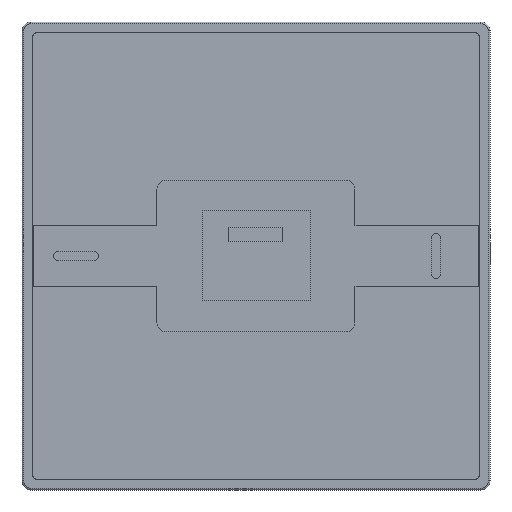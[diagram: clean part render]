
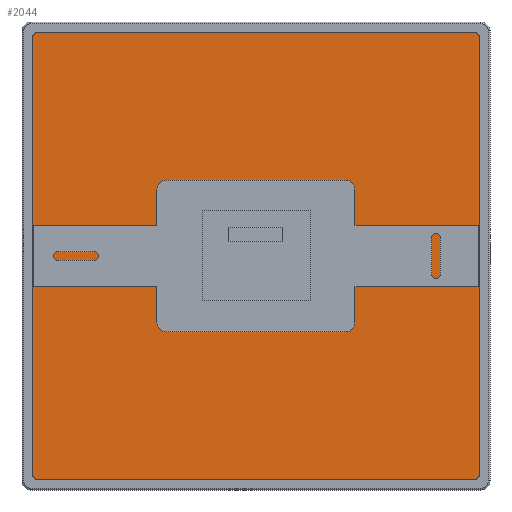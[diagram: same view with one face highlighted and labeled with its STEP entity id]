
A CAD part, front view. The second image highlights one B-rep face of the part: STEP entity #2044.
In plain terms, the highlighted planar face has unit normal (0, -1, 0).
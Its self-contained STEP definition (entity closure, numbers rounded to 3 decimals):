
#26=FACE_BOUND('',#242,.T.);
#46=PLANE('',#2190);
#125=FACE_OUTER_BOUND('',#241,.T.);
#241=EDGE_LOOP('',(#1355,#1356,#1357,#1358,#1359,#1360,#1361,#1362));
#242=EDGE_LOOP('',(#1363,#1364,#1365,#1366));
#372=LINE('',#2960,#584);
#376=LINE('',#2972,#588);
#381=LINE('',#2986,#593);
#382=LINE('',#2988,#594);
#383=LINE('',#2992,#595);
#384=LINE('',#2994,#596);
#385=LINE('',#2996,#597);
#386=LINE('',#2997,#598);
#584=VECTOR('',#2376,10.);
#588=VECTOR('',#2388,10.);
#593=VECTOR('',#2401,10.);
#594=VECTOR('',#2402,10.);
#595=VECTOR('',#2405,10.);
#596=VECTOR('',#2406,10.);
#597=VECTOR('',#2407,10.);
#598=VECTOR('',#2408,10.);
#794=CIRCLE('',#2180,2.);
#796=CIRCLE('',#2184,2.);
#798=CIRCLE('',#2188,2.);
#800=CIRCLE('',#2191,2.);
#867=VERTEX_POINT('',#2950);
#868=VERTEX_POINT('',#2951);
#871=VERTEX_POINT('',#2959);
#873=VERTEX_POINT('',#2965);
#875=VERTEX_POINT('',#2971);
#877=VERTEX_POINT('',#2977);
#878=VERTEX_POINT('',#2978);
#881=VERTEX_POINT('',#2987);
#882=VERTEX_POINT('',#2990);
#883=VERTEX_POINT('',#2991);
#884=VERTEX_POINT('',#2993);
#885=VERTEX_POINT('',#2995);
#1051=EDGE_CURVE('',#867,#868,#794,.T.);
#1055=EDGE_CURVE('',#867,#871,#372,.T.);
#1058=EDGE_CURVE('',#873,#871,#796,.T.);
#1061=EDGE_CURVE('',#873,#875,#376,.T.);
#1064=EDGE_CURVE('',#877,#878,#798,.T.);
#1068=EDGE_CURVE('',#877,#868,#381,.T.);
#1069=EDGE_CURVE('',#881,#878,#382,.T.);
#1070=EDGE_CURVE('',#881,#875,#800,.T.);
#1071=EDGE_CURVE('',#882,#883,#383,.T.);
#1072=EDGE_CURVE('',#884,#882,#384,.T.);
#1073=EDGE_CURVE('',#885,#884,#385,.T.);
#1074=EDGE_CURVE('',#883,#885,#386,.T.);
#1355=ORIENTED_EDGE('',*,*,#1051,.T.);
#1356=ORIENTED_EDGE('',*,*,#1068,.F.);
#1357=ORIENTED_EDGE('',*,*,#1064,.T.);
#1358=ORIENTED_EDGE('',*,*,#1069,.F.);
#1359=ORIENTED_EDGE('',*,*,#1070,.T.);
#1360=ORIENTED_EDGE('',*,*,#1061,.F.);
#1361=ORIENTED_EDGE('',*,*,#1058,.T.);
#1362=ORIENTED_EDGE('',*,*,#1055,.F.);
#1363=ORIENTED_EDGE('',*,*,#1071,.F.);
#1364=ORIENTED_EDGE('',*,*,#1072,.F.);
#1365=ORIENTED_EDGE('',*,*,#1073,.F.);
#1366=ORIENTED_EDGE('',*,*,#1074,.F.);
#2044=ADVANCED_FACE('',(#125,#26),#46,.F.);
#2180=AXIS2_PLACEMENT_3D('',#2952,#2368,#2369);
#2184=AXIS2_PLACEMENT_3D('',#2966,#2381,#2382);
#2188=AXIS2_PLACEMENT_3D('',#2979,#2393,#2394);
#2190=AXIS2_PLACEMENT_3D('',#2985,#2399,#2400);
#2191=AXIS2_PLACEMENT_3D('',#2989,#2403,#2404);
#2368=DIRECTION('center_axis',(0.,-1.,0.));
#2369=DIRECTION('ref_axis',(-0.707,0.,0.707));
#2376=DIRECTION('',(1.,0.,0.));
#2381=DIRECTION('center_axis',(0.,-1.,0.));
#2382=DIRECTION('ref_axis',(0.707,0.,0.707));
#2388=DIRECTION('',(0.,0.,-1.));
#2393=DIRECTION('center_axis',(0.,-1.,0.));
#2394=DIRECTION('ref_axis',(-0.707,0.,-0.707));
#2399=DIRECTION('center_axis',(0.,1.,0.));
#2400=DIRECTION('ref_axis',(0.,0.,1.));
#2401=DIRECTION('',(0.,0.,1.));
#2402=DIRECTION('',(-1.,0.,0.));
#2403=DIRECTION('center_axis',(0.,-1.,0.));
#2404=DIRECTION('ref_axis',(0.707,0.,-0.707));
#2405=DIRECTION('',(1.,0.,0.));
#2406=DIRECTION('',(0.,0.,-1.));
#2407=DIRECTION('',(-1.,0.,0.));
#2408=DIRECTION('',(0.,0.,1.));
#2950=CARTESIAN_POINT('',(-122.,4.,124.));
#2951=CARTESIAN_POINT('',(-124.,4.,122.));
#2952=CARTESIAN_POINT('Origin',(-122.,4.,122.));
#2959=CARTESIAN_POINT('',(122.,4.,124.));
#2960=CARTESIAN_POINT('',(124.,4.,124.));
#2965=CARTESIAN_POINT('',(124.,4.,122.));
#2966=CARTESIAN_POINT('Origin',(122.,4.,122.));
#2971=CARTESIAN_POINT('',(124.,4.,-122.));
#2972=CARTESIAN_POINT('',(124.,4.,-124.));
#2977=CARTESIAN_POINT('',(-124.,4.,-122.));
#2978=CARTESIAN_POINT('',(-122.,4.,-124.));
#2979=CARTESIAN_POINT('Origin',(-122.,4.,-122.));
#2985=CARTESIAN_POINT('Origin',(0.,4.,0.));
#2986=CARTESIAN_POINT('',(-124.,4.,124.));
#2987=CARTESIAN_POINT('',(122.,4.,-124.));
#2988=CARTESIAN_POINT('',(-124.,4.,-124.));
#2989=CARTESIAN_POINT('Origin',(122.,4.,-122.));
#2990=CARTESIAN_POINT('',(-30.,4.,-25.));
#2991=CARTESIAN_POINT('',(30.,4.,-25.));
#2992=CARTESIAN_POINT('',(15.,4.,-25.));
#2993=CARTESIAN_POINT('',(-30.,4.,25.));
#2994=CARTESIAN_POINT('',(-30.,4.,-12.5));
#2995=CARTESIAN_POINT('',(30.,4.,25.));
#2996=CARTESIAN_POINT('',(-15.,4.,25.));
#2997=CARTESIAN_POINT('',(30.,4.,12.5));
